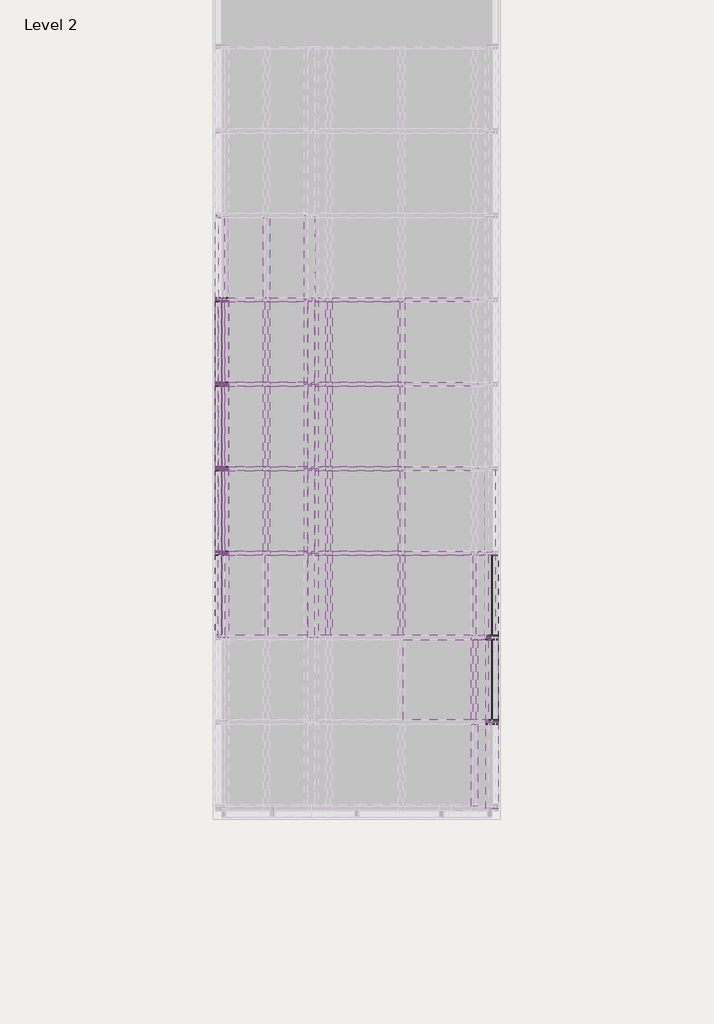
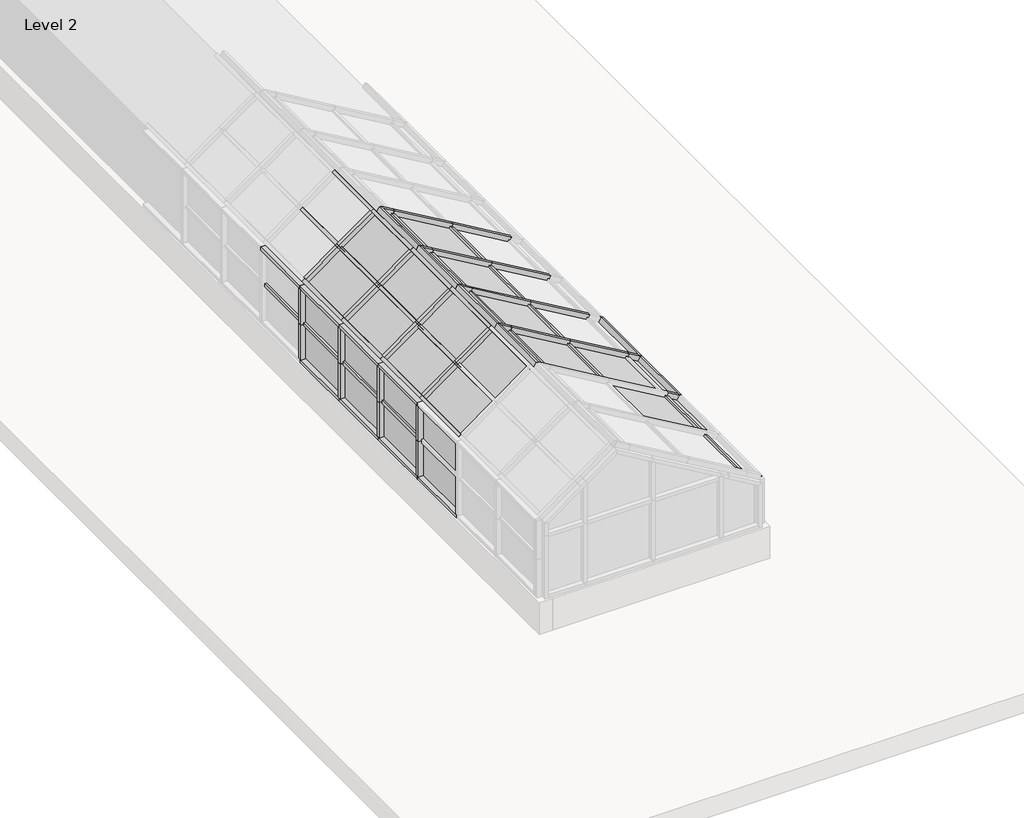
# One storey, part 2 of 5: 76 members, 30 plates.
"""IFC4 building model written with IfcOpenShell, lengths in millimetres."""

from ifc_helpers import new_model, si_unit, origin, place, context, project, spatial, transform, mapped, element, save
from components import rectangular_mullion_50mm_x_150mm_bbc1c4ea, rectangular_mullion_50mm_x_150mm_eeb88b28, rectangular_mullion_50mm_x_150mm_a65b6ca2, rectangular_mullion_50mm_x_150mm_a3f7cd42, rectangular_mullion_50mm_x_150mm_b93c35cb, rectangular_mullion_50mm_x_150mm_5b0837ce, rectangular_mullion_50mm_x_150mm_ae680e05, rectangular_mullion_50mm_x_65mm_20714c67, rectangular_mullion_50mm_x_65mm_31c1307f, system_panel_glazed_870feb4d, system_panel_glazed_ce9ce1f6, system_panel_glazed_b73f3a15, system_panel_glazed_e5572be6, system_panel_glazed_8ed7f146

model = new_model("IFC4")

# Units and contexts
model_context = context("Model", 3, world=origin())
ifc_project = project(units=[si_unit("LENGTHUNIT", "METRE", prefix="MILLI")], contexts=[model_context])

# Site, building, storey
site = spatial("IfcSite", under=ifc_project)
building = spatial("IfcBuilding", under=site)
storey = spatial("IfcBuildingStorey", under=building, Name="Level 2", Elevation=4000.0)

# Members
placement = place(None, origin())
rectangular_mullion_50mm_x_150mm_shape = rectangular_mullion_50mm_x_150mm_bbc1c4ea(model_context)
element("IfcMember", 1, ObjectType="Rectangular Mullion : 50mm x 150mm", at=placement, inside=storey, context=model_context, shape_type="MappedRepresentation", body=[
    mapped(rectangular_mullion_50mm_x_150mm_shape, transform((2564.0558626, -3416.183534, 6633.2209294), x_axis=(0.0, -1.0, 0.0), y_axis=(0.507304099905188, 0.0, 0.8617671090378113), z_axis=(-0.8617671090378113, 0.0, 0.507304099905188))),
])
element("IfcMember", 2, ObjectType="Rectangular Mullion : 50mm x 150mm", at=placement, inside=storey, context=model_context, shape_type="MappedRepresentation", body=[
    mapped(rectangular_mullion_50mm_x_150mm_shape, transform((3425.8229716, -3416.183534, 6125.9168295), x_axis=(0.0, -1.0, 0.0), y_axis=(0.507304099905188, 0.0, 0.8617671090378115), z_axis=(-0.8617671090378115, 0.0, 0.507304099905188))),
])
element("IfcMember", 3, ObjectType="Rectangular Mullion : 50mm x 150mm", at=placement, inside=storey, context=model_context, shape_type="MappedRepresentation", body=[
    mapped(rectangular_mullion_50mm_x_150mm_shape, transform((2564.0558626, -2416.183534, 6633.2209294), x_axis=(0.0, -1.0, 0.0), y_axis=(0.5073040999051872, 0.0, 0.8617671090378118), z_axis=(-0.8617671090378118, 0.0, 0.5073040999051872))),
])
element("IfcMember", 4, ObjectType="Rectangular Mullion : 50mm x 150mm", at=placement, inside=storey, context=model_context, shape_type="MappedRepresentation", body=[
    mapped(rectangular_mullion_50mm_x_150mm_shape, transform((3425.8229716, -2416.183534, 6125.9168295), x_axis=(0.0, -1.0, 0.0), y_axis=(0.507304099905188, 0.0, 0.8617671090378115), z_axis=(-0.8617671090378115, 0.0, 0.507304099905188))),
])
element("IfcMember", 5, ObjectType="Rectangular Mullion : 50mm x 150mm", at=placement, inside=storey, context=model_context, shape_type="MappedRepresentation", body=[
    mapped(rectangular_mullion_50mm_x_150mm_shape, transform((2564.0558626, -1416.183534, 6633.2209294), x_axis=(0.0, -1.0, 0.0), y_axis=(0.5073040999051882, 0.0, 0.8617671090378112), z_axis=(-0.8617671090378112, 0.0, 0.5073040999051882))),
])
element("IfcMember", 6, ObjectType="Rectangular Mullion : 50mm x 150mm", at=placement, inside=storey, context=model_context, shape_type="MappedRepresentation", body=[
    mapped(rectangular_mullion_50mm_x_150mm_shape, transform((3425.8229716, -1416.183534, 6125.9168295), x_axis=(0.0, -1.0, 0.0), y_axis=(0.5073040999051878, 0.0, 0.8617671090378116), z_axis=(-0.8617671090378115, 0.0, 0.5073040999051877))),
])
element("IfcMember", 7, ObjectType="Rectangular Mullion : 50mm x 150mm", at=placement, inside=storey, context=model_context, shape_type="MappedRepresentation", body=[
    mapped(rectangular_mullion_50mm_x_150mm_shape, transform((2564.0558626, -416.183534, 6633.2209294), x_axis=(0.0, -1.0, 0.0), y_axis=(0.507304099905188, 0.0, 0.8617671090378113), z_axis=(-0.8617671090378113, 0.0, 0.507304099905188))),
])
element("IfcMember", 8, ObjectType="Rectangular Mullion : 50mm x 150mm", at=placement, inside=storey, context=model_context, shape_type="MappedRepresentation", body=[
    mapped(rectangular_mullion_50mm_x_150mm_shape, transform((3425.8229716, -416.183534, 6125.9168295), x_axis=(0.0, -1.0, 0.0), y_axis=(0.5073040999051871, 0.0, 0.861767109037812), z_axis=(-0.861767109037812, 0.0, 0.5073040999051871))),
])
rectangular_mullion_50mm_x_150mm_2_shape = rectangular_mullion_50mm_x_150mm_eeb88b28(model_context)
element("IfcMember", 9, ObjectType="Rectangular Mullion : 50mm x 150mm", at=placement, inside=storey, context=model_context, shape_type="MappedRepresentation", body=[
    mapped(rectangular_mullion_50mm_x_150mm_2_shape, transform((1296.0159363, -1416.183534, 5995.9168295), x_axis=(-0.8125956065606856, 0.0, -0.5828279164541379), y_axis=(-0.5828279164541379, 0.0, 0.8125956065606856), z_axis=(0.0, 1.0, 0.0))),
])
element("IfcMember", 10, ObjectType="Rectangular Mullion : 50mm x 150mm", at=placement, inside=storey, context=model_context, shape_type="MappedRepresentation", body=[
    mapped(rectangular_mullion_50mm_x_150mm_2_shape, transform((1296.0159363, -416.183534, 5995.9168295), x_axis=(-0.8125956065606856, 0.0, -0.5828279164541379), y_axis=(-0.5828279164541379, 0.0, 0.8125956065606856), z_axis=(0.0, 1.0, 0.0))),
])
element("IfcMember", 11, ObjectType="Rectangular Mullion : 50mm x 150mm", at=placement, inside=storey, context=model_context, shape_type="MappedRepresentation", body=[
    mapped(rectangular_mullion_50mm_x_150mm_2_shape, transform((1296.0159363, -3416.183534, 5995.9168295), x_axis=(-0.8125956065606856, 0.0, -0.5828279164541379), y_axis=(-0.5828279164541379, 0.0, 0.8125956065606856), z_axis=(0.0, 1.0, 0.0))),
])
element("IfcMember", 12, ObjectType="Rectangular Mullion : 50mm x 150mm", at=placement, inside=storey, context=model_context, shape_type="MappedRepresentation", body=[
    mapped(rectangular_mullion_50mm_x_150mm_2_shape, transform((1296.0159363, -2416.183534, 5995.9168295), x_axis=(-0.8125956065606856, 0.0, -0.5828279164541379), y_axis=(-0.5828279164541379, 0.0, 0.8125956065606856), z_axis=(0.0, 1.0, 0.0))),
])
element("IfcMember", 13, ObjectType="Rectangular Mullion : 50mm x 150mm", at=placement, inside=storey, context=model_context, shape_type="MappedRepresentation", body=[
    mapped(rectangular_mullion_50mm_x_150mm_2_shape, transform((1296.0159363, -1416.183534, 4800.0), x_axis=(0.0, 0.0, -1.0), y_axis=(-1.0, 0.0, 0.0), z_axis=(0.0, 1.0, 0.0))),
])
element("IfcMember", 14, ObjectType="Rectangular Mullion : 50mm x 150mm", at=placement, inside=storey, context=model_context, shape_type="MappedRepresentation", body=[
    mapped(rectangular_mullion_50mm_x_150mm_2_shape, transform((1296.0159363, -2416.183534, 4800.0), x_axis=(0.0, 0.0, -1.0), y_axis=(-1.0, 0.0, 0.0), z_axis=(0.0, 1.0, 0.0))),
])
element("IfcMember", 15, ObjectType="Rectangular Mullion : 50mm x 150mm", at=placement, inside=storey, context=model_context, shape_type="MappedRepresentation", body=[
    mapped(rectangular_mullion_50mm_x_150mm_2_shape, transform((1296.0159363, -3416.183534, 4800.0), x_axis=(0.0, 0.0, -1.0), y_axis=(-1.0, 0.0, 0.0), z_axis=(0.0, 1.0, 0.0))),
])
element("IfcMember", 16, ObjectType="Rectangular Mullion : 50mm x 150mm", at=placement, inside=storey, context=model_context, shape_type="MappedRepresentation", body=[
    mapped(rectangular_mullion_50mm_x_150mm_2_shape, transform((1296.0159363, -416.183534, 4800.0), x_axis=(0.0, 0.0, -1.0), y_axis=(-1.0, 0.0, 0.0), z_axis=(0.0, 1.0, 0.0))),
])
element("IfcMember", 17, ObjectType="Rectangular Mullion : 50mm x 150mm", at=placement, inside=storey, context=model_context, shape_type="MappedRepresentation", body=[
    mapped(rectangular_mullion_50mm_x_150mm_2_shape, transform((4496.0159363, -4416.183534, 5495.9168295), x_axis=(0.8617671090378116, 0.0, -0.5073040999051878), y_axis=(0.5073040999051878, 0.0, 0.8617671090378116), z_axis=(0.0, -1.0, 0.0))),
])
element("IfcMember", 18, ObjectType="Rectangular Mullion : 50mm x 150mm", at=placement, inside=storey, context=model_context, shape_type="MappedRepresentation", body=[
    mapped(rectangular_mullion_50mm_x_150mm_2_shape, transform((4496.0159363, -3416.183534, 5495.9168295), x_axis=(0.8617671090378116, 0.0, -0.5073040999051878), y_axis=(0.5073040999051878, 0.0, 0.8617671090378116), z_axis=(0.0, -1.0, 0.0))),
])
element("IfcMember", 19, ObjectType="Rectangular Mullion : 50mm x 150mm", at=placement, inside=storey, context=model_context, shape_type="MappedRepresentation", body=[
    mapped(rectangular_mullion_50mm_x_150mm_2_shape, transform((4496.0159363, -5416.183534, 4800.0), x_axis=(0.0, 0.0, -1.0), y_axis=(1.0, 0.0, 0.0), z_axis=(0.0, -1.0, 0.0))),
])
element("IfcMember", 20, ObjectType="Rectangular Mullion : 50mm x 150mm", at=placement, inside=storey, context=model_context, shape_type="MappedRepresentation", body=[
    mapped(rectangular_mullion_50mm_x_150mm_2_shape, transform((4496.0159363, -4416.183534, 4800.0), x_axis=(0.0, 0.0, -1.0), y_axis=(1.0, 0.0, 0.0), z_axis=(0.0, -1.0, 0.0))),
])
rectangular_mullion_50mm_x_150mm_3_shape = rectangular_mullion_50mm_x_150mm_a65b6ca2(model_context)
element("IfcMember", 21, ObjectType="Rectangular Mullion : 50mm x 150mm", at=placement, inside=storey, context=model_context, shape_type="MappedRepresentation", body=[
    mapped(rectangular_mullion_50mm_x_150mm_3_shape, transform((4496.0159363, -5416.183534, 5495.9168295), x_axis=(0.0, 0.0, 1.0), y_axis=(1.0, 0.0, 0.0), z_axis=(0.0, 1.0, 0.0))),
])
element("IfcMember", 22, ObjectType="Rectangular Mullion : 50mm x 150mm", at=placement, inside=storey, context=model_context, shape_type="MappedRepresentation", body=[
    mapped(rectangular_mullion_50mm_x_150mm_2_shape, transform((2355.6300069, -3416.183534, 6755.9168295), x_axis=(0.8125956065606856, 0.0, 0.5828279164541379), y_axis=(-0.5828279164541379, 0.0, 0.8125956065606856), z_axis=(0.0, -1.0, 0.0))),
])
element("IfcMember", 23, ObjectType="Rectangular Mullion : 50mm x 150mm", at=placement, inside=storey, context=model_context, shape_type="MappedRepresentation", body=[
    mapped(rectangular_mullion_50mm_x_150mm_2_shape, transform((2355.6300069, -2416.183534, 6755.9168295), x_axis=(0.8125956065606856, 0.0, 0.5828279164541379), y_axis=(-0.5828279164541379, 0.0, 0.8125956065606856), z_axis=(0.0, -1.0, 0.0))),
])
element("IfcMember", 24, ObjectType="Rectangular Mullion : 50mm x 150mm", at=placement, inside=storey, context=model_context, shape_type="MappedRepresentation", body=[
    mapped(rectangular_mullion_50mm_x_150mm_2_shape, transform((2355.6300069, -1416.183534, 6755.9168295), x_axis=(0.8125956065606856, 0.0, 0.5828279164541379), y_axis=(-0.5828279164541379, 0.0, 0.8125956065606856), z_axis=(0.0, -1.0, 0.0))),
])
element("IfcMember", 25, ObjectType="Rectangular Mullion : 50mm x 150mm", at=placement, inside=storey, context=model_context, shape_type="MappedRepresentation", body=[
    mapped(rectangular_mullion_50mm_x_150mm_2_shape, transform((2355.6300069, -416.183534, 6755.9168295), x_axis=(0.8125956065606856, 0.0, 0.5828279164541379), y_axis=(-0.5828279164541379, 0.0, 0.8125956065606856), z_axis=(0.0, -1.0, 0.0))),
])
element("IfcMember", 26, ObjectType="Rectangular Mullion : 50mm x 150mm", at=placement, inside=storey, context=model_context, shape_type="MappedRepresentation", body=[
    mapped(rectangular_mullion_50mm_x_150mm_2_shape, transform((1296.0159363, -2416.183534, 5995.9168295), x_axis=(0.0, 0.0, 1.0), y_axis=(-1.0, 0.0, 0.0), z_axis=(0.0, -1.0, 0.0))),
])
element("IfcMember", 27, ObjectType="Rectangular Mullion : 50mm x 150mm", at=placement, inside=storey, context=model_context, shape_type="MappedRepresentation", body=[
    mapped(rectangular_mullion_50mm_x_150mm_2_shape, transform((1296.0159363, -416.183534, 5995.9168295), x_axis=(0.0, 0.0, 1.0), y_axis=(-1.0, 0.0, 0.0), z_axis=(0.0, -1.0, 0.0))),
])
element("IfcMember", 28, ObjectType="Rectangular Mullion : 50mm x 150mm", at=placement, inside=storey, context=model_context, shape_type="MappedRepresentation", body=[
    mapped(rectangular_mullion_50mm_x_150mm_2_shape, transform((1296.0159363, -1416.183534, 5995.9168295), x_axis=(0.0, 0.0, 1.0), y_axis=(-1.0, 0.0, 0.0), z_axis=(0.0, -1.0, 0.0))),
])
element("IfcMember", 29, ObjectType="Rectangular Mullion : 50mm x 150mm", at=placement, inside=storey, context=model_context, shape_type="MappedRepresentation", body=[
    mapped(rectangular_mullion_50mm_x_150mm_2_shape, transform((1296.0159363, -3416.183534, 5995.9168295), x_axis=(0.0, 0.0, 1.0), y_axis=(-1.0, 0.0, 0.0), z_axis=(0.0, -1.0, 0.0))),
])
element("IfcMember", 30, ObjectType="Rectangular Mullion : 50mm x 150mm", at=placement, inside=storey, context=model_context, shape_type="MappedRepresentation", body=[
    mapped(rectangular_mullion_50mm_x_150mm_2_shape, transform((2355.6300069, -3416.183534, 6755.9168295), x_axis=(-0.8617671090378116, 0.0, 0.5073040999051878), y_axis=(0.5073040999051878, 0.0, 0.8617671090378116), z_axis=(0.0, 1.0, 0.0))),
])
element("IfcMember", 31, ObjectType="Rectangular Mullion : 50mm x 150mm", at=placement, inside=storey, context=model_context, shape_type="MappedRepresentation", body=[
    mapped(rectangular_mullion_50mm_x_150mm_2_shape, transform((2355.6300069, -2416.183534, 6755.9168295), x_axis=(-0.8617671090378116, 0.0, 0.5073040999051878), y_axis=(0.5073040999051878, 0.0, 0.8617671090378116), z_axis=(0.0, 1.0, 0.0))),
])
element("IfcMember", 32, ObjectType="Rectangular Mullion : 50mm x 150mm", at=placement, inside=storey, context=model_context, shape_type="MappedRepresentation", body=[
    mapped(rectangular_mullion_50mm_x_150mm_2_shape, transform((2355.6300069, -1416.183534, 6755.9168295), x_axis=(-0.8617671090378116, 0.0, 0.5073040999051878), y_axis=(0.5073040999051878, 0.0, 0.8617671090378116), z_axis=(0.0, 1.0, 0.0))),
])
element("IfcMember", 33, ObjectType="Rectangular Mullion : 50mm x 150mm", at=placement, inside=storey, context=model_context, shape_type="MappedRepresentation", body=[
    mapped(rectangular_mullion_50mm_x_150mm_2_shape, transform((2355.6300069, -416.183534, 6755.9168295), x_axis=(-0.8617671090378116, 0.0, 0.5073040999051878), y_axis=(0.5073040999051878, 0.0, 0.8617671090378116), z_axis=(0.0, 1.0, 0.0))),
])
element("IfcMember", 34, ObjectType="Rectangular Mullion : 50mm x 150mm", at=placement, inside=storey, context=model_context, shape_type="MappedRepresentation", body=[
    mapped(rectangular_mullion_50mm_x_150mm_2_shape, transform((4496.0159363, -4416.183534, 5495.9168295), x_axis=(0.0, 0.0, 1.0), y_axis=(1.0, 0.0, 0.0), z_axis=(0.0, 1.0, 0.0))),
])
rectangular_mullion_50mm_x_150mm_4_shape = rectangular_mullion_50mm_x_150mm_a3f7cd42(model_context)
element("IfcMember", 35, ObjectType="Rectangular Mullion : 50mm x 150mm", at=placement, inside=storey, context=model_context, shape_type="MappedRepresentation", body=[
    mapped(rectangular_mullion_50mm_x_150mm_4_shape, transform((2315.0002265, -2416.183534, 6726.7754337), x_axis=(0.0, 1.0, 0.0), y_axis=(-0.5828279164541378, 0.0, 0.8125956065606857), z_axis=(0.8125956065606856, 0.0, 0.5828279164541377))),
])
element("IfcMember", 36, ObjectType="Rectangular Mullion : 50mm x 150mm", at=placement, inside=storey, context=model_context, shape_type="MappedRepresentation", body=[
    mapped(rectangular_mullion_50mm_x_150mm_4_shape, transform((2315.0002265, -1416.183534, 6726.7754337), x_axis=(0.0, 1.0, 0.0), y_axis=(-0.5828279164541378, 0.0, 0.8125956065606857), z_axis=(0.8125956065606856, 0.0, 0.5828279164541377))),
])
element("IfcMember", 37, ObjectType="Rectangular Mullion : 50mm x 150mm", at=placement, inside=storey, context=model_context, shape_type="MappedRepresentation", body=[
    mapped(rectangular_mullion_50mm_x_150mm_4_shape, transform((2315.0002265, -416.183534, 6726.7754337), x_axis=(0.0, 1.0, 0.0), y_axis=(-0.5828279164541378, 0.0, 0.8125956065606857), z_axis=(0.8125956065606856, 0.0, 0.5828279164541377))),
])
element("IfcMember", 38, ObjectType="Rectangular Mullion : 50mm x 150mm", at=placement, inside=storey, context=model_context, shape_type="MappedRepresentation", body=[
    mapped(rectangular_mullion_50mm_x_150mm_4_shape, transform((2315.0002265, -3416.183534, 6726.7754337), x_axis=(0.0, 1.0, 0.0), y_axis=(-0.5828279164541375, 0.0, 0.8125956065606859), z_axis=(0.8125956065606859, 0.0, 0.5828279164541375))),
])
element("IfcMember", 39, ObjectType="Rectangular Mullion : 50mm x 150mm", at=placement, inside=storey, context=model_context, shape_type="MappedRepresentation", body=[
    mapped(rectangular_mullion_50mm_x_150mm_4_shape, transform((1825.8229716, -416.183534, 6375.9168295), x_axis=(0.0, 1.0, 0.0), y_axis=(-0.5828279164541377, 0.0, 0.8125956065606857), z_axis=(0.8125956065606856, 0.0, 0.5828279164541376))),
])
element("IfcMember", 40, ObjectType="Rectangular Mullion : 50mm x 150mm", at=placement, inside=storey, context=model_context, shape_type="MappedRepresentation", body=[
    mapped(rectangular_mullion_50mm_x_150mm_4_shape, transform((1825.8229716, -1416.183534, 6375.9168295), x_axis=(0.0, 1.0, 0.0), y_axis=(-0.582827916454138, 0.0, 0.8125956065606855), z_axis=(0.8125956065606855, 0.0, 0.582827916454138))),
])
element("IfcMember", 41, ObjectType="Rectangular Mullion : 50mm x 150mm", at=placement, inside=storey, context=model_context, shape_type="MappedRepresentation", body=[
    mapped(rectangular_mullion_50mm_x_150mm_4_shape, transform((1825.8229716, -2416.183534, 6375.9168295), x_axis=(0.0, 1.0, 0.0), y_axis=(-0.5828279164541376, 0.0, 0.8125956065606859), z_axis=(0.8125956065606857, 0.0, 0.5828279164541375))),
])
element("IfcMember", 42, ObjectType="Rectangular Mullion : 50mm x 150mm", at=placement, inside=storey, context=model_context, shape_type="MappedRepresentation", body=[
    mapped(rectangular_mullion_50mm_x_150mm_4_shape, transform((1825.8229716, -3416.183534, 6375.9168295), x_axis=(0.0, 1.0, 0.0), y_axis=(-0.5828279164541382, 0.0, 0.8125956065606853), z_axis=(0.8125956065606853, 0.0, 0.5828279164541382))),
])
rectangular_mullion_50mm_x_150mm_5_shape = rectangular_mullion_50mm_x_150mm_b93c35cb(model_context)
element("IfcMember", 43, ObjectType="Rectangular Mullion : 50mm x 150mm", at=placement, inside=storey, context=model_context, shape_type="MappedRepresentation", body=[
    mapped(rectangular_mullion_50mm_x_150mm_5_shape, transform((1296.0159363, -416.183534, 5397.9584148), x_axis=(0.0, 1.0, 0.0), y_axis=(-1.0, 0.0, 0.0), z_axis=(0.0, 0.0, 1.0))),
])
element("IfcMember", 44, ObjectType="Rectangular Mullion : 50mm x 150mm", at=placement, inside=storey, context=model_context, shape_type="MappedRepresentation", body=[
    mapped(rectangular_mullion_50mm_x_150mm_5_shape, transform((1296.0159363, -1416.183534, 5397.9584148), x_axis=(0.0, 1.0, 0.0), y_axis=(-1.0, 0.0, 0.0), z_axis=(0.0, 0.0, 1.0))),
])
element("IfcMember", 45, ObjectType="Rectangular Mullion : 50mm x 150mm", at=placement, inside=storey, context=model_context, shape_type="MappedRepresentation", body=[
    mapped(rectangular_mullion_50mm_x_150mm_5_shape, transform((1296.0159363, -2416.183534, 5397.9584148), x_axis=(0.0, 1.0, 0.0), y_axis=(-1.0, 0.0, 0.0), z_axis=(0.0, 0.0, 1.0))),
])
element("IfcMember", 46, ObjectType="Rectangular Mullion : 50mm x 150mm", at=placement, inside=storey, context=model_context, shape_type="MappedRepresentation", body=[
    mapped(rectangular_mullion_50mm_x_150mm_5_shape, transform((1296.0159363, -3416.183534, 5397.9584148), x_axis=(0.0, 1.0, 0.0), y_axis=(-1.0, 0.0, 0.0), z_axis=(0.0, 0.0, 1.0))),
])
element("IfcMember", 47, ObjectType="Rectangular Mullion : 50mm x 150mm", at=placement, inside=storey, context=model_context, shape_type="MappedRepresentation", body=[
    mapped(rectangular_mullion_50mm_x_150mm_5_shape, transform((1296.0159363, -1416.183534, 5945.9168295), x_axis=(0.0, 1.0, 0.0), y_axis=(-1.0, 0.0, 0.0), z_axis=(0.0, 0.0, 1.0))),
])
element("IfcMember", 48, ObjectType="Rectangular Mullion : 50mm x 150mm", at=placement, inside=storey, context=model_context, shape_type="MappedRepresentation", body=[
    mapped(rectangular_mullion_50mm_x_150mm_5_shape, transform((1296.0159363, -2416.183534, 5945.9168295), x_axis=(0.0, 1.0, 0.0), y_axis=(-1.0, 0.0, 0.0), z_axis=(0.0, 0.0, 1.0))),
])
element("IfcMember", 49, ObjectType="Rectangular Mullion : 50mm x 150mm", at=placement, inside=storey, context=model_context, shape_type="MappedRepresentation", body=[
    mapped(rectangular_mullion_50mm_x_150mm_5_shape, transform((1296.0159363, -416.183534, 5945.9168295), x_axis=(0.0, 1.0, 0.0), y_axis=(-1.0, 0.0, 0.0), z_axis=(0.0, 0.0, 1.0))),
])
element("IfcMember", 50, ObjectType="Rectangular Mullion : 50mm x 150mm", at=placement, inside=storey, context=model_context, shape_type="MappedRepresentation", body=[
    mapped(rectangular_mullion_50mm_x_150mm_5_shape, transform((1296.0159363, -3416.183534, 5945.9168295), x_axis=(0.0, 1.0, 0.0), y_axis=(-1.0, 0.0, 0.0), z_axis=(0.0, 0.0, 1.0))),
])
rectangular_mullion_50mm_x_150mm_6_shape = rectangular_mullion_50mm_x_150mm_5b0837ce(model_context)
element("IfcMember", 51, ObjectType="Rectangular Mullion : 50mm x 150mm", at=placement, inside=storey, context=model_context, shape_type="MappedRepresentation", body=[
    mapped(rectangular_mullion_50mm_x_150mm_6_shape, transform((2398.7183623, -416.183534, 6730.5516245), x_axis=(0.0, -1.0, 0.0), y_axis=(0.5073040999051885, 0.0, 0.8617671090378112), z_axis=(-0.8617671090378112, 0.0, 0.5073040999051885))),
])
element("IfcMember", 52, ObjectType="Rectangular Mullion : 50mm x 150mm", at=placement, inside=storey, context=model_context, shape_type="MappedRepresentation", body=[
    mapped(rectangular_mullion_50mm_x_150mm_6_shape, transform((2398.7183623, -1416.183534, 6730.5516245), x_axis=(0.0, -1.0, 0.0), y_axis=(0.5073040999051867, 0.0, 0.8617671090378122), z_axis=(-0.8617671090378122, 0.0, 0.5073040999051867))),
])
element("IfcMember", 53, ObjectType="Rectangular Mullion : 50mm x 150mm", at=placement, inside=storey, context=model_context, shape_type="MappedRepresentation", body=[
    mapped(rectangular_mullion_50mm_x_150mm_6_shape, transform((2398.7183623, -2416.183534, 6730.5516245), x_axis=(0.0, -1.0, 0.0), y_axis=(0.5073040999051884, 0.0, 0.8617671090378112), z_axis=(-0.8617671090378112, 0.0, 0.5073040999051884))),
])
element("IfcMember", 54, ObjectType="Rectangular Mullion : 50mm x 150mm", at=placement, inside=storey, context=model_context, shape_type="MappedRepresentation", body=[
    mapped(rectangular_mullion_50mm_x_150mm_6_shape, transform((2398.7183623, -3416.183534, 6730.5516245), x_axis=(0.0, -1.0, 0.0), y_axis=(0.507304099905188, 0.0, 0.8617671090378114), z_axis=(-0.8617671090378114, 0.0, 0.507304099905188))),
])
element("IfcMember", 55, ObjectType="Rectangular Mullion : 50mm x 150mm", at=placement, inside=storey, context=model_context, shape_type="MappedRepresentation", body=[
    mapped(rectangular_mullion_50mm_x_150mm_6_shape, transform((4287.5900806, -4416.183534, 5618.6127296), x_axis=(0.0, -1.0, 0.0), y_axis=(0.5073040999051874, 0.0, 0.8617671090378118), z_axis=(-0.8617671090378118, 0.0, 0.5073040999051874))),
])
element("IfcMember", 56, ObjectType="Rectangular Mullion : 50mm x 150mm", at=placement, inside=storey, context=model_context, shape_type="MappedRepresentation", body=[
    mapped(rectangular_mullion_50mm_x_150mm_6_shape, transform((4287.5900806, -3416.183534, 5618.6127296), x_axis=(0.0, -1.0, 0.0), y_axis=(0.5073040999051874, 0.0, 0.8617671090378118), z_axis=(-0.8617671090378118, 0.0, 0.5073040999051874))),
])
rectangular_mullion_50mm_x_150mm_7_shape = rectangular_mullion_50mm_x_150mm_ae680e05(model_context)
element("IfcMember", 57, ObjectType="Rectangular Mullion : 50mm x 150mm", at=placement, inside=storey, context=model_context, shape_type="MappedRepresentation", body=[
    mapped(rectangular_mullion_50mm_x_150mm_7_shape, transform((4496.0159363, -5416.183534, 5445.9168295), x_axis=(0.0, -1.0, 0.0), y_axis=(1.0, 0.0, 0.0), z_axis=(0.0, 0.0, 1.0))),
])
element("IfcMember", 58, ObjectType="Rectangular Mullion : 50mm x 150mm", at=placement, inside=storey, context=model_context, shape_type="MappedRepresentation", body=[
    mapped(rectangular_mullion_50mm_x_150mm_7_shape, transform((4496.0159363, -4416.183534, 5445.9168295), x_axis=(0.0, -1.0, 0.0), y_axis=(1.0, 0.0, 0.0), z_axis=(0.0, 0.0, 1.0))),
])
rectangular_mullion_50mm_x_65mm_shape = rectangular_mullion_50mm_x_65mm_20714c67(model_context)
element("IfcMember", 59, ObjectType="Rectangular Mullion : 50mm x 65mm", at=placement, inside=storey, context=model_context, shape_type="MappedRepresentation", body=[
    mapped(rectangular_mullion_50mm_x_65mm_shape, transform((4287.5900806, -5441.183534, 5618.6127296), x_axis=(-0.8617671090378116, 0.0, 0.5073040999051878), y_axis=(0.5073040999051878, 0.0, 0.8617671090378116), z_axis=(0.0, 1.0, 0.0))),
])
rectangular_mullion_50mm_x_65mm_2_shape = rectangular_mullion_50mm_x_65mm_31c1307f(model_context)
element("IfcMember", 60, ObjectType="Rectangular Mullion : 50mm x 65mm", at=placement, inside=storey, context=model_context, shape_type="MappedRepresentation", body=[
    mapped(rectangular_mullion_50mm_x_65mm_2_shape, transform((1825.8229716, -391.183534, 6375.9168295), x_axis=(0.8125956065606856, 0.0, 0.5828279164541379), y_axis=(-0.5828279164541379, 0.0, 0.8125956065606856), z_axis=(0.0, -1.0, 0.0))),
])
element("IfcMember", 61, ObjectType="Rectangular Mullion : 50mm x 65mm", at=placement, inside=storey, context=model_context, shape_type="MappedRepresentation", body=[
    mapped(rectangular_mullion_50mm_x_65mm_2_shape, transform((1825.8229716, -1391.183534, 6375.9168295), x_axis=(0.8125956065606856, 0.0, 0.5828279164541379), y_axis=(-0.5828279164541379, 0.0, 0.8125956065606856), z_axis=(0.0, -1.0, 0.0))),
])
element("IfcMember", 62, ObjectType="Rectangular Mullion : 50mm x 65mm", at=placement, inside=storey, context=model_context, shape_type="MappedRepresentation", body=[
    mapped(rectangular_mullion_50mm_x_65mm_2_shape, transform((1825.8229716, -2391.183534, 6375.9168295), x_axis=(0.8125956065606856, 0.0, 0.5828279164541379), y_axis=(-0.5828279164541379, 0.0, 0.8125956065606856), z_axis=(0.0, -1.0, 0.0))),
])
element("IfcMember", 63, ObjectType="Rectangular Mullion : 50mm x 65mm", at=placement, inside=storey, context=model_context, shape_type="MappedRepresentation", body=[
    mapped(rectangular_mullion_50mm_x_65mm_2_shape, transform((1825.8229716, -3391.183534, 6375.9168295), x_axis=(0.8125956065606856, 0.0, 0.5828279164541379), y_axis=(-0.5828279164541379, 0.0, 0.8125956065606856), z_axis=(0.0, -1.0, 0.0))),
])
element("IfcMember", 64, ObjectType="Rectangular Mullion : 50mm x 65mm", at=placement, inside=storey, context=model_context, shape_type="MappedRepresentation", body=[
    mapped(rectangular_mullion_50mm_x_65mm_2_shape, transform((1296.0159363, -3391.183534, 5397.9584148), x_axis=(0.0, 0.0, 1.0), y_axis=(-1.0, 0.0, 0.0), z_axis=(0.0, -1.0, 0.0))),
])
element("IfcMember", 65, ObjectType="Rectangular Mullion : 50mm x 65mm", at=placement, inside=storey, context=model_context, shape_type="MappedRepresentation", body=[
    mapped(rectangular_mullion_50mm_x_65mm_2_shape, transform((1296.0159363, -1391.183534, 5397.9584148), x_axis=(0.0, 0.0, 1.0), y_axis=(-1.0, 0.0, 0.0), z_axis=(0.0, -1.0, 0.0))),
])
element("IfcMember", 66, ObjectType="Rectangular Mullion : 50mm x 65mm", at=placement, inside=storey, context=model_context, shape_type="MappedRepresentation", body=[
    mapped(rectangular_mullion_50mm_x_65mm_2_shape, transform((1296.0159363, -2391.183534, 5397.9584148), x_axis=(0.0, 0.0, 1.0), y_axis=(-1.0, 0.0, 0.0), z_axis=(0.0, -1.0, 0.0))),
])
element("IfcMember", 67, ObjectType="Rectangular Mullion : 50mm x 65mm", at=placement, inside=storey, context=model_context, shape_type="MappedRepresentation", body=[
    mapped(rectangular_mullion_50mm_x_65mm_2_shape, transform((1296.0159363, -391.183534, 5397.9584148), x_axis=(0.0, 0.0, 1.0), y_axis=(-1.0, 0.0, 0.0), z_axis=(0.0, -1.0, 0.0))),
])
element("IfcMember", 68, ObjectType="Rectangular Mullion : 50mm x 65mm", at=placement, inside=storey, context=model_context, shape_type="MappedRepresentation", body=[
    mapped(rectangular_mullion_50mm_x_65mm_2_shape, transform((2564.0558626, -3441.183534, 6633.2209294), x_axis=(-0.8617671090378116, 0.0, 0.5073040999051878), y_axis=(0.5073040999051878, 0.0, 0.8617671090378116), z_axis=(0.0, 1.0, 0.0))),
])
element("IfcMember", 69, ObjectType="Rectangular Mullion : 50mm x 65mm", at=placement, inside=storey, context=model_context, shape_type="MappedRepresentation", body=[
    mapped(rectangular_mullion_50mm_x_65mm_2_shape, transform((3425.8229716, -1441.183534, 6125.9168295), x_axis=(-0.8617671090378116, 0.0, 0.5073040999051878), y_axis=(0.5073040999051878, 0.0, 0.8617671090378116), z_axis=(0.0, 1.0, 0.0))),
])
element("IfcMember", 70, ObjectType="Rectangular Mullion : 50mm x 65mm", at=placement, inside=storey, context=model_context, shape_type="MappedRepresentation", body=[
    mapped(rectangular_mullion_50mm_x_65mm_2_shape, transform((3425.8229716, -2441.183534, 6125.9168295), x_axis=(-0.8617671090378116, 0.0, 0.5073040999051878), y_axis=(0.5073040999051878, 0.0, 0.8617671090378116), z_axis=(0.0, 1.0, 0.0))),
])
element("IfcMember", 71, ObjectType="Rectangular Mullion : 50mm x 65mm", at=placement, inside=storey, context=model_context, shape_type="MappedRepresentation", body=[
    mapped(rectangular_mullion_50mm_x_65mm_2_shape, transform((3425.8229716, -3441.183534, 6125.9168295), x_axis=(-0.8617671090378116, 0.0, 0.5073040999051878), y_axis=(0.5073040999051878, 0.0, 0.8617671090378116), z_axis=(0.0, 1.0, 0.0))),
])
element("IfcMember", 72, ObjectType="Rectangular Mullion : 50mm x 65mm", at=placement, inside=storey, context=model_context, shape_type="MappedRepresentation", body=[
    mapped(rectangular_mullion_50mm_x_65mm_2_shape, transform((3425.8229716, -441.183534, 6125.9168295), x_axis=(-0.8617671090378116, 0.0, 0.5073040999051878), y_axis=(0.5073040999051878, 0.0, 0.8617671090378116), z_axis=(0.0, 1.0, 0.0))),
])
element("IfcMember", 73, ObjectType="Rectangular Mullion : 50mm x 65mm", at=placement, inside=storey, context=model_context, shape_type="MappedRepresentation", body=[
    mapped(rectangular_mullion_50mm_x_65mm_2_shape, transform((2564.0558626, -2441.183534, 6633.2209294), x_axis=(-0.8617671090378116, 0.0, 0.5073040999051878), y_axis=(0.5073040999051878, 0.0, 0.8617671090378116), z_axis=(0.0, 1.0, 0.0))),
])
element("IfcMember", 74, ObjectType="Rectangular Mullion : 50mm x 65mm", at=placement, inside=storey, context=model_context, shape_type="MappedRepresentation", body=[
    mapped(rectangular_mullion_50mm_x_65mm_2_shape, transform((2564.0558626, -1441.183534, 6633.2209294), x_axis=(-0.8617671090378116, 0.0, 0.5073040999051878), y_axis=(0.5073040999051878, 0.0, 0.8617671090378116), z_axis=(0.0, 1.0, 0.0))),
])
element("IfcMember", 75, ObjectType="Rectangular Mullion : 50mm x 65mm", at=placement, inside=storey, context=model_context, shape_type="MappedRepresentation", body=[
    mapped(rectangular_mullion_50mm_x_65mm_2_shape, transform((2564.0558626, -441.183534, 6633.2209294), x_axis=(-0.8617671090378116, 0.0, 0.5073040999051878), y_axis=(0.5073040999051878, 0.0, 0.8617671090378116), z_axis=(0.0, 1.0, 0.0))),
])
element("IfcMember", 76, ObjectType="Rectangular Mullion : 50mm x 65mm", at=placement, inside=storey, context=model_context, shape_type="MappedRepresentation", body=[
    mapped(rectangular_mullion_50mm_x_65mm_2_shape, transform((4287.5900806, -4441.183534, 5618.6127296), x_axis=(-0.8617671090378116, 0.0, 0.5073040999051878), y_axis=(0.5073040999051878, 0.0, 0.8617671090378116), z_axis=(0.0, 1.0, 0.0))),
])

# Plates
system_panel_glazed_shape = system_panel_glazed_870feb4d(model_context)
element("IfcPlate", 77, ObjectType="System Panel : Glazed", at=placement, inside=storey, context=model_context, shape_type="MappedRepresentation", body=[
    mapped(system_panel_glazed_shape, transform((1336.6457166, -916.183534, 6025.0582253), x_axis=(0.0, 1.0, 0.0), y_axis=(-0.5828279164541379, 0.0, 0.8125956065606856), z_axis=(0.8125956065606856, 0.0, 0.5828279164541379))),
])
element("IfcPlate", 78, ObjectType="System Panel : Glazed", at=placement, inside=storey, context=model_context, shape_type="MappedRepresentation", body=[
    mapped(system_panel_glazed_shape, transform((1336.6457166, -1916.183534, 6025.0582253), x_axis=(0.0, 1.0, 0.0), y_axis=(-0.5828279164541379, 0.0, 0.8125956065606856), z_axis=(0.8125956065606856, 0.0, 0.5828279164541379))),
])
element("IfcPlate", 79, ObjectType="System Panel : Glazed", at=placement, inside=storey, context=model_context, shape_type="MappedRepresentation", body=[
    mapped(system_panel_glazed_shape, transform((1336.6457166, -2916.183534, 6025.0582253), x_axis=(0.0, 1.0, 0.0), y_axis=(-0.5828279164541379, 0.0, 0.8125956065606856), z_axis=(0.8125956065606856, 0.0, 0.5828279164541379))),
])
element("IfcPlate", 80, ObjectType="System Panel : Glazed", at=placement, inside=storey, context=model_context, shape_type="MappedRepresentation", body=[
    mapped(system_panel_glazed_shape, transform((1336.6457166, -3916.183534, 6025.0582253), x_axis=(0.0, 1.0, 0.0), y_axis=(-0.5828279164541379, 0.0, 0.8125956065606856), z_axis=(0.8125956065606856, 0.0, 0.5828279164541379))),
])
element("IfcPlate", 81, ObjectType="System Panel : Glazed", at=placement, inside=storey, context=model_context, shape_type="MappedRepresentation", body=[
    mapped(system_panel_glazed_shape, transform((1846.1378618, -3916.183534, 6390.4875274), x_axis=(0.0, 1.0, 0.0), y_axis=(-0.5828279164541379, 0.0, 0.8125956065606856), z_axis=(0.8125956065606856, 0.0, 0.5828279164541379))),
])
element("IfcPlate", 82, ObjectType="System Panel : Glazed", at=placement, inside=storey, context=model_context, shape_type="MappedRepresentation", body=[
    mapped(system_panel_glazed_shape, transform((1846.1378618, -2916.183534, 6390.4875274), x_axis=(0.0, 1.0, 0.0), y_axis=(-0.5828279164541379, 0.0, 0.8125956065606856), z_axis=(0.8125956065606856, 0.0, 0.5828279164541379))),
])
element("IfcPlate", 83, ObjectType="System Panel : Glazed", at=placement, inside=storey, context=model_context, shape_type="MappedRepresentation", body=[
    mapped(system_panel_glazed_shape, transform((1846.1378618, -1916.183534, 6390.4875274), x_axis=(0.0, 1.0, 0.0), y_axis=(-0.5828279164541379, 0.0, 0.8125956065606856), z_axis=(0.8125956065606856, 0.0, 0.5828279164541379))),
])
element("IfcPlate", 84, ObjectType="System Panel : Glazed", at=placement, inside=storey, context=model_context, shape_type="MappedRepresentation", body=[
    mapped(system_panel_glazed_shape, transform((1846.1378618, -916.183534, 6390.4875274), x_axis=(0.0, 1.0, 0.0), y_axis=(-0.5828279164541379, 0.0, 0.8125956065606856), z_axis=(0.8125956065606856, 0.0, 0.5828279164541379))),
])
system_panel_glazed_2_shape = system_panel_glazed_ce9ce1f6(model_context)
element("IfcPlate", 85, ObjectType="System Panel : Glazed", at=placement, inside=storey, context=model_context, shape_type="MappedRepresentation", body=[
    mapped(system_panel_glazed_2_shape, transform((1296.0159363, -916.183534, 4850.0), x_axis=(0.0, 1.0, 0.0), y_axis=(-1.0, 0.0, 0.0), z_axis=(0.0, 0.0, 1.0))),
])
element("IfcPlate", 86, ObjectType="System Panel : Glazed", at=placement, inside=storey, context=model_context, shape_type="MappedRepresentation", body=[
    mapped(system_panel_glazed_2_shape, transform((1296.0159363, -1916.183534, 4850.0), x_axis=(0.0, 1.0, 0.0), y_axis=(-1.0, 0.0, 0.0), z_axis=(0.0, 0.0, 1.0))),
])
element("IfcPlate", 87, ObjectType="System Panel : Glazed", at=placement, inside=storey, context=model_context, shape_type="MappedRepresentation", body=[
    mapped(system_panel_glazed_2_shape, transform((1296.0159363, -2916.183534, 4850.0), x_axis=(0.0, 1.0, 0.0), y_axis=(-1.0, 0.0, 0.0), z_axis=(0.0, 0.0, 1.0))),
])
element("IfcPlate", 88, ObjectType="System Panel : Glazed", at=placement, inside=storey, context=model_context, shape_type="MappedRepresentation", body=[
    mapped(system_panel_glazed_2_shape, transform((1296.0159363, -3916.183534, 4850.0), x_axis=(0.0, 1.0, 0.0), y_axis=(-1.0, 0.0, 0.0), z_axis=(0.0, 0.0, 1.0))),
])
element("IfcPlate", 89, ObjectType="System Panel : Glazed", at=placement, inside=storey, context=model_context, shape_type="MappedRepresentation", body=[
    mapped(system_panel_glazed_2_shape, transform((1296.0159363, -3916.183534, 5422.9584148), x_axis=(0.0, 1.0, 0.0), y_axis=(-1.0, 0.0, 0.0), z_axis=(0.0, 0.0, 1.0))),
])
element("IfcPlate", 90, ObjectType="System Panel : Glazed", at=placement, inside=storey, context=model_context, shape_type="MappedRepresentation", body=[
    mapped(system_panel_glazed_2_shape, transform((1296.0159363, -2916.183534, 5422.9584148), x_axis=(0.0, 1.0, 0.0), y_axis=(-1.0, 0.0, 0.0), z_axis=(0.0, 0.0, 1.0))),
])
element("IfcPlate", 91, ObjectType="System Panel : Glazed", at=placement, inside=storey, context=model_context, shape_type="MappedRepresentation", body=[
    mapped(system_panel_glazed_2_shape, transform((1296.0159363, -1916.183534, 5422.9584148), x_axis=(0.0, 1.0, 0.0), y_axis=(-1.0, 0.0, 0.0), z_axis=(0.0, 0.0, 1.0))),
])
element("IfcPlate", 92, ObjectType="System Panel : Glazed", at=placement, inside=storey, context=model_context, shape_type="MappedRepresentation", body=[
    mapped(system_panel_glazed_2_shape, transform((1296.0159363, -916.183534, 5422.9584148), x_axis=(0.0, 1.0, 0.0), y_axis=(-1.0, 0.0, 0.0), z_axis=(0.0, 0.0, 1.0))),
])
system_panel_glazed_3_shape = system_panel_glazed_b73f3a15(model_context)
element("IfcPlate", 93, ObjectType="System Panel : Glazed", at=placement, inside=storey, context=model_context, shape_type="MappedRepresentation", body=[
    mapped(system_panel_glazed_3_shape, transform((4452.9275809, -3916.183534, 5521.2820345), x_axis=(0.0, -1.0, 0.0), y_axis=(0.5073040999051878, 0.0, 0.8617671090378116), z_axis=(-0.8617671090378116, 0.0, 0.5073040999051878))),
])
element("IfcPlate", 94, ObjectType="System Panel : Glazed", at=placement, inside=storey, context=model_context, shape_type="MappedRepresentation", body=[
    mapped(system_panel_glazed_3_shape, transform((4452.9275809, -4916.183534, 5521.2820345), x_axis=(0.0, -1.0, 0.0), y_axis=(0.5073040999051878, 0.0, 0.8617671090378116), z_axis=(-0.8617671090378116, 0.0, 0.5073040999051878))),
])
element("IfcPlate", 95, ObjectType="System Panel : Glazed", at=placement, inside=storey, context=model_context, shape_type="MappedRepresentation", body=[
    mapped(system_panel_glazed_3_shape, transform((2542.5116848, -916.183534, 6645.9035319), x_axis=(0.0, -1.0, 0.0), y_axis=(0.5073040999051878, 0.0, 0.8617671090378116), z_axis=(-0.8617671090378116, 0.0, 0.5073040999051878))),
])
element("IfcPlate", 96, ObjectType="System Panel : Glazed", at=placement, inside=storey, context=model_context, shape_type="MappedRepresentation", body=[
    mapped(system_panel_glazed_3_shape, transform((2542.5116848, -1916.183534, 6645.9035319), x_axis=(0.0, -1.0, 0.0), y_axis=(0.5073040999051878, 0.0, 0.8617671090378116), z_axis=(-0.8617671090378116, 0.0, 0.5073040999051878))),
])
element("IfcPlate", 97, ObjectType="System Panel : Glazed", at=placement, inside=storey, context=model_context, shape_type="MappedRepresentation", body=[
    mapped(system_panel_glazed_3_shape, transform((2542.5116848, -2916.183534, 6645.9035319), x_axis=(0.0, -1.0, 0.0), y_axis=(0.5073040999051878, 0.0, 0.8617671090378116), z_axis=(-0.8617671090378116, 0.0, 0.5073040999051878))),
])
element("IfcPlate", 98, ObjectType="System Panel : Glazed", at=placement, inside=storey, context=model_context, shape_type="MappedRepresentation", body=[
    mapped(system_panel_glazed_3_shape, transform((2542.5116848, -3916.183534, 6645.9035319), x_axis=(0.0, -1.0, 0.0), y_axis=(0.5073040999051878, 0.0, 0.8617671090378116), z_axis=(-0.8617671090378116, 0.0, 0.5073040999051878))),
])
system_panel_glazed_4_shape = system_panel_glazed_e5572be6(model_context)
element("IfcPlate", 99, ObjectType="System Panel : Glazed", at=placement, inside=storey, context=model_context, shape_type="MappedRepresentation", body=[
    mapped(system_panel_glazed_4_shape, transform((3404.2787939, -916.183534, 6138.599432), x_axis=(0.0, -1.0, 0.0), y_axis=(0.5073040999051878, 0.0, 0.8617671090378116), z_axis=(-0.8617671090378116, 0.0, 0.5073040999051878))),
])
element("IfcPlate", 100, ObjectType="System Panel : Glazed", at=placement, inside=storey, context=model_context, shape_type="MappedRepresentation", body=[
    mapped(system_panel_glazed_4_shape, transform((3404.2787939, -1916.183534, 6138.599432), x_axis=(0.0, -1.0, 0.0), y_axis=(0.5073040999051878, 0.0, 0.8617671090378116), z_axis=(-0.8617671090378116, 0.0, 0.5073040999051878))),
])
element("IfcPlate", 101, ObjectType="System Panel : Glazed", at=placement, inside=storey, context=model_context, shape_type="MappedRepresentation", body=[
    mapped(system_panel_glazed_4_shape, transform((3404.2787939, -2916.183534, 6138.599432), x_axis=(0.0, -1.0, 0.0), y_axis=(0.5073040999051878, 0.0, 0.8617671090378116), z_axis=(-0.8617671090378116, 0.0, 0.5073040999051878))),
])
element("IfcPlate", 102, ObjectType="System Panel : Glazed", at=placement, inside=storey, context=model_context, shape_type="MappedRepresentation", body=[
    mapped(system_panel_glazed_4_shape, transform((3404.2787939, -3916.183534, 6138.599432), x_axis=(0.0, -1.0, 0.0), y_axis=(0.5073040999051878, 0.0, 0.8617671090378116), z_axis=(-0.8617671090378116, 0.0, 0.5073040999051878))),
])
element("IfcPlate", 103, ObjectType="System Panel : Glazed", at=placement, inside=storey, context=model_context, shape_type="MappedRepresentation", body=[
    mapped(system_panel_glazed_4_shape, transform((4266.0459029, -3916.183534, 5631.2953321), x_axis=(0.0, -1.0, 0.0), y_axis=(0.5073040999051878, 0.0, 0.8617671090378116), z_axis=(-0.8617671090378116, 0.0, 0.5073040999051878))),
])
element("IfcPlate", 104, ObjectType="System Panel : Glazed", at=placement, inside=storey, context=model_context, shape_type="MappedRepresentation", body=[
    mapped(system_panel_glazed_4_shape, transform((4266.0459029, -4916.183534, 5631.2953321), x_axis=(0.0, -1.0, 0.0), y_axis=(0.5073040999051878, 0.0, 0.8617671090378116), z_axis=(-0.8617671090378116, 0.0, 0.5073040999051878))),
])
system_panel_glazed_5_shape = system_panel_glazed_8ed7f146(model_context)
element("IfcPlate", 105, ObjectType="System Panel : Glazed", at=placement, inside=storey, context=model_context, shape_type="MappedRepresentation", body=[
    mapped(system_panel_glazed_5_shape, transform((4496.0159363, -3916.183534, 4850.0), x_axis=(0.0, -1.0, 0.0), y_axis=(1.0, 0.0, 0.0), z_axis=(0.0, 0.0, 1.0))),
])
element("IfcPlate", 106, ObjectType="System Panel : Glazed", at=placement, inside=storey, context=model_context, shape_type="MappedRepresentation", body=[
    mapped(system_panel_glazed_5_shape, transform((4496.0159363, -4916.183534, 4850.0), x_axis=(0.0, -1.0, 0.0), y_axis=(1.0, 0.0, 0.0), z_axis=(0.0, 0.0, 1.0))),
])

save(model, "model.ifc")
